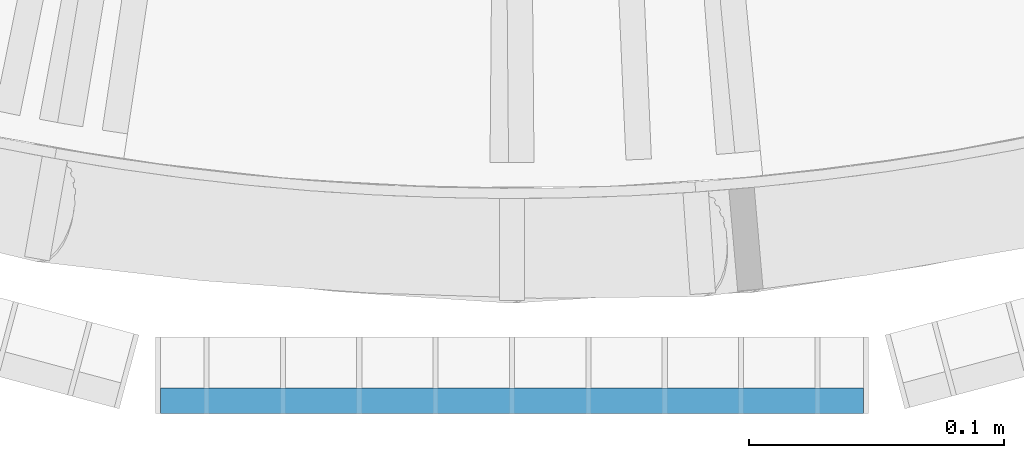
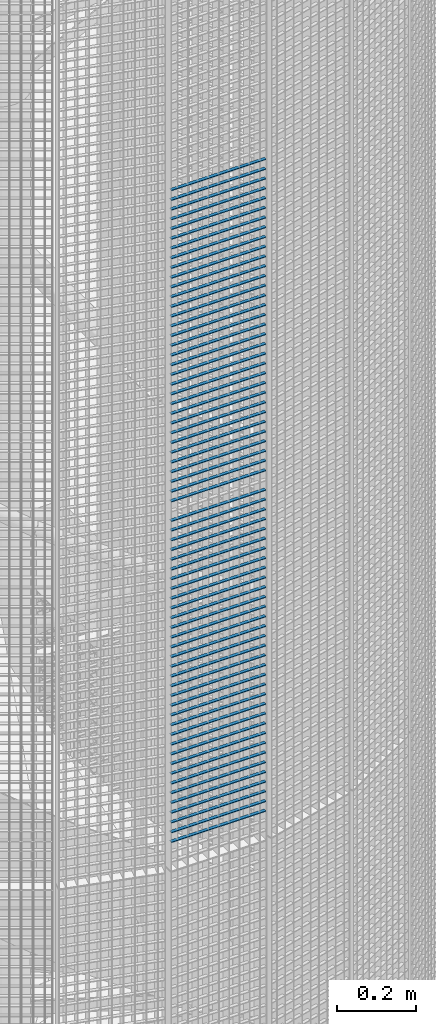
# One storey, part 382 of 1148: 67 beams, 1 element without a shape of its own.
"""IFC2X3 building model written with IfcOpenShell, lengths in millimetres."""

from ifc_helpers import new_model, si_unit, frame, origin_with_axes, origin_2d_with_axis, place, context, subcontext, project, spatial, rectangle, extrude, material, type_object, element, aggregate, save


model = new_model("IFC2X3")

# Units and contexts
model_context = context("Model", 3, precision=1e-05, world=origin_with_axes())
body_context = subcontext(model_context, "Body", "Model", "MODEL_VIEW")
ifc_project = project(units=[si_unit("LENGTHUNIT", "METRE", prefix="MILLI"), si_unit("AREAUNIT", "SQUARE_METRE"), si_unit("VOLUMEUNIT", "CUBIC_METRE"), si_unit("MASSUNIT", "GRAM", prefix="KILO"), si_unit("TIMEUNIT", "SECOND"), si_unit("PLANEANGLEUNIT", "RADIAN"), si_unit("SOLIDANGLEUNIT", "STERADIAN"), si_unit("THERMODYNAMICTEMPERATUREUNIT", "DEGREE_CELSIUS"), si_unit("LUMINOUSINTENSITYUNIT", "LUMEN")], contexts=[model_context])

# Site, building, storey
site_placement = place(None, origin_with_axes())
site = spatial("IfcSite", under=ifc_project, at=site_placement, Name="Undefined", CompositionType="ELEMENT")
building_placement = place(site_placement, origin_with_axes())
building = spatial("IfcBuilding", under=site, at=building_placement, Name="Undefined", CompositionType="ELEMENT")
storey_placement = place(building_placement, origin_with_axes())
storey = spatial("IfcBuildingStorey", under=building, at=storey_placement, Name="Undefined", CompositionType="ELEMENT", Elevation=0.0)

# Assembly, beams
assembly_placement = place(storey_placement, origin_with_axes())
assembly = element("IfcElementAssembly", 1, at=assembly_placement, inside=storey, Name="BORDURE", AssemblyPlace="NOTDEFINED", PredefinedType="NOTDEFINED")
ifc_material = material(Name="STEEL/S235JR")
beam_type = type_object("IfcBeamType", Name="PL2*10", PredefinedType="NOTDEFINED")
beam_1_placement = place(assembly_placement, frame((21737.9960033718, -1113.47999999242, 14100.0), z_axis=(0.0, -1.0, 0.0), x_axis=(-1.0, 0.0, 0.0)))
beam_1 = element("IfcBeam", 2, at=beam_1_placement, type_object=beam_type, material=ifc_material, Name="ENTRETOISE", context=body_context, shape_type="SweptSolid", body=[
    extrude(rectangle(XDim=2.0, YDim=10.0, at=origin_2d_with_axis()), frame((275.999999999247, 9.09494701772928e-13, 1.53210777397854e-14), z_axis=(-1.0, 0.0, 0.0), x_axis=(0.0, -1.0, 0.0)), (0.0, 0.0, 1.0), 276.0),
])
beam_2_placement = place(assembly_placement, frame((21737.9960033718, -1113.47999999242, 14070.0), z_axis=(0.0, -1.0, 0.0), x_axis=(-1.0, 0.0, 0.0)))
beam_2 = element("IfcBeam", 3, at=beam_2_placement, type_object=beam_type, material=ifc_material, Name="ENTRETOISE", context=body_context, shape_type="SweptSolid", body=[
    extrude(rectangle(XDim=2.0, YDim=10.0, at=origin_2d_with_axis()), frame((275.999999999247, 9.09494701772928e-13, 1.53210777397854e-14), z_axis=(-1.0, 0.0, 0.0), x_axis=(0.0, -1.0, 0.0)), (0.0, 0.0, 1.0), 276.0),
])
beam_3_placement = place(assembly_placement, frame((21737.9960033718, -1113.47999999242, 14040.0), z_axis=(0.0, -1.0, 0.0), x_axis=(-1.0, 0.0, 0.0)))
beam_3 = element("IfcBeam", 4, at=beam_3_placement, type_object=beam_type, material=ifc_material, Name="ENTRETOISE", context=body_context, shape_type="SweptSolid", body=[
    extrude(rectangle(XDim=2.0, YDim=10.0, at=origin_2d_with_axis()), frame((275.999999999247, 9.09494701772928e-13, 1.53210777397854e-14), z_axis=(-1.0, 0.0, 0.0), x_axis=(0.0, -1.0, 0.0)), (0.0, 0.0, 1.0), 276.0),
])
beam_4_placement = place(assembly_placement, frame((21737.9960033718, -1113.47999999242, 14010.0), z_axis=(0.0, -1.0, 0.0), x_axis=(-1.0, 0.0, 0.0)))
beam_4 = element("IfcBeam", 5, at=beam_4_placement, type_object=beam_type, material=ifc_material, Name="ENTRETOISE", context=body_context, shape_type="SweptSolid", body=[
    extrude(rectangle(XDim=2.0, YDim=10.0, at=origin_2d_with_axis()), frame((275.999999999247, 9.09494701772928e-13, 1.53210777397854e-14), z_axis=(-1.0, 0.0, 0.0), x_axis=(0.0, -1.0, 0.0)), (0.0, 0.0, 1.0), 276.0),
])
beam_5_placement = place(assembly_placement, frame((21737.9960033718, -1113.47999999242, 13980.0), z_axis=(0.0, -1.0, 0.0), x_axis=(-1.0, 0.0, 0.0)))
beam_5 = element("IfcBeam", 6, at=beam_5_placement, type_object=beam_type, material=ifc_material, Name="ENTRETOISE", context=body_context, shape_type="SweptSolid", body=[
    extrude(rectangle(XDim=2.0, YDim=10.0, at=origin_2d_with_axis()), frame((275.999999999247, 9.09494701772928e-13, 1.53210777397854e-14), z_axis=(-1.0, 0.0, 0.0), x_axis=(0.0, -1.0, 0.0)), (0.0, 0.0, 1.0), 276.0),
])
beam_6_placement = place(assembly_placement, frame((21737.9960033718, -1113.47999999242, 13950.0), z_axis=(0.0, -1.0, 0.0), x_axis=(-1.0, 0.0, 0.0)))
beam_6 = element("IfcBeam", 7, at=beam_6_placement, type_object=beam_type, material=ifc_material, Name="ENTRETOISE", context=body_context, shape_type="SweptSolid", body=[
    extrude(rectangle(XDim=2.0, YDim=10.0, at=origin_2d_with_axis()), frame((275.999999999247, 9.09494701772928e-13, 1.53210777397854e-14), z_axis=(-1.0, 0.0, 0.0), x_axis=(0.0, -1.0, 0.0)), (0.0, 0.0, 1.0), 276.0),
])
beam_7_placement = place(assembly_placement, frame((21737.9960033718, -1113.47999999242, 13920.0), z_axis=(0.0, -1.0, 0.0), x_axis=(-1.0, 0.0, 0.0)))
beam_7 = element("IfcBeam", 8, at=beam_7_placement, type_object=beam_type, material=ifc_material, Name="ENTRETOISE", context=body_context, shape_type="SweptSolid", body=[
    extrude(rectangle(XDim=2.0, YDim=10.0, at=origin_2d_with_axis()), frame((275.999999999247, 9.09494701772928e-13, 1.53210777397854e-14), z_axis=(-1.0, 0.0, 0.0), x_axis=(0.0, -1.0, 0.0)), (0.0, 0.0, 1.0), 276.0),
])
beam_8_placement = place(assembly_placement, frame((21737.9960033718, -1113.47999999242, 13890.0), z_axis=(0.0, -1.0, 0.0), x_axis=(-1.0, 0.0, 0.0)))
beam_8 = element("IfcBeam", 9, at=beam_8_placement, type_object=beam_type, material=ifc_material, Name="ENTRETOISE", context=body_context, shape_type="SweptSolid", body=[
    extrude(rectangle(XDim=2.0, YDim=10.0, at=origin_2d_with_axis()), frame((275.999999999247, 9.09494701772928e-13, 1.53210777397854e-14), z_axis=(-1.0, 0.0, 0.0), x_axis=(0.0, -1.0, 0.0)), (0.0, 0.0, 1.0), 276.0),
])
beam_9_placement = place(assembly_placement, frame((21737.9960033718, -1113.47999999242, 13860.0), z_axis=(0.0, -1.0, 0.0), x_axis=(-1.0, 0.0, 0.0)))
beam_9 = element("IfcBeam", 10, at=beam_9_placement, type_object=beam_type, material=ifc_material, Name="ENTRETOISE", context=body_context, shape_type="SweptSolid", body=[
    extrude(rectangle(XDim=2.0, YDim=10.0, at=origin_2d_with_axis()), frame((275.999999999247, 9.09494701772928e-13, 1.53210777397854e-14), z_axis=(-1.0, 0.0, 0.0), x_axis=(0.0, -1.0, 0.0)), (0.0, 0.0, 1.0), 276.0),
])
beam_10_placement = place(assembly_placement, frame((21737.9960033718, -1113.47999999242, 13830.0), z_axis=(0.0, -1.0, 0.0), x_axis=(-1.0, 0.0, 0.0)))
beam_10 = element("IfcBeam", 11, at=beam_10_placement, type_object=beam_type, material=ifc_material, Name="ENTRETOISE", context=body_context, shape_type="SweptSolid", body=[
    extrude(rectangle(XDim=2.0, YDim=10.0, at=origin_2d_with_axis()), frame((275.999999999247, 9.09494701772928e-13, 1.53210777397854e-14), z_axis=(-1.0, 0.0, 0.0), x_axis=(0.0, -1.0, 0.0)), (0.0, 0.0, 1.0), 276.0),
])
beam_11_placement = place(assembly_placement, frame((21737.9960033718, -1113.47999999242, 13800.0), z_axis=(0.0, -1.0, 0.0), x_axis=(-1.0, 0.0, 0.0)))
beam_11 = element("IfcBeam", 12, at=beam_11_placement, type_object=beam_type, material=ifc_material, Name="ENTRETOISE", context=body_context, shape_type="SweptSolid", body=[
    extrude(rectangle(XDim=2.0, YDim=10.0, at=origin_2d_with_axis()), frame((275.999999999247, 9.09494701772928e-13, 1.53210777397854e-14), z_axis=(-1.0, 0.0, 0.0), x_axis=(0.0, -1.0, 0.0)), (0.0, 0.0, 1.0), 276.0),
])
beam_12_placement = place(assembly_placement, frame((21737.9960033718, -1113.47999999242, 13770.0), z_axis=(0.0, -1.0, 0.0), x_axis=(-1.0, 0.0, 0.0)))
beam_12 = element("IfcBeam", 13, at=beam_12_placement, type_object=beam_type, material=ifc_material, Name="ENTRETOISE", context=body_context, shape_type="SweptSolid", body=[
    extrude(rectangle(XDim=2.0, YDim=10.0, at=origin_2d_with_axis()), frame((275.999999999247, 9.09494701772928e-13, 1.53210777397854e-14), z_axis=(-1.0, 0.0, 0.0), x_axis=(0.0, -1.0, 0.0)), (0.0, 0.0, 1.0), 276.0),
])
beam_13_placement = place(assembly_placement, frame((21737.9960033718, -1113.47999999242, 13740.0), z_axis=(0.0, -1.0, 0.0), x_axis=(-1.0, 0.0, 0.0)))
beam_13 = element("IfcBeam", 14, at=beam_13_placement, type_object=beam_type, material=ifc_material, Name="ENTRETOISE", context=body_context, shape_type="SweptSolid", body=[
    extrude(rectangle(XDim=2.0, YDim=10.0, at=origin_2d_with_axis()), frame((275.999999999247, 9.09494701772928e-13, 1.53210777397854e-14), z_axis=(-1.0, 0.0, 0.0), x_axis=(0.0, -1.0, 0.0)), (0.0, 0.0, 1.0), 276.0),
])
beam_14_placement = place(assembly_placement, frame((21737.9960033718, -1113.47999999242, 13710.0), z_axis=(0.0, -1.0, 0.0), x_axis=(-1.0, 0.0, 0.0)))
beam_14 = element("IfcBeam", 15, at=beam_14_placement, type_object=beam_type, material=ifc_material, Name="ENTRETOISE", context=body_context, shape_type="SweptSolid", body=[
    extrude(rectangle(XDim=2.0, YDim=10.0, at=origin_2d_with_axis()), frame((275.999999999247, 9.09494701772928e-13, 1.53210777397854e-14), z_axis=(-1.0, 0.0, 0.0), x_axis=(0.0, -1.0, 0.0)), (0.0, 0.0, 1.0), 276.0),
])
beam_15_placement = place(assembly_placement, frame((21737.9960033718, -1113.47999999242, 13680.0), z_axis=(0.0, -1.0, 0.0), x_axis=(-1.0, 0.0, 0.0)))
beam_15 = element("IfcBeam", 16, at=beam_15_placement, type_object=beam_type, material=ifc_material, Name="ENTRETOISE", context=body_context, shape_type="SweptSolid", body=[
    extrude(rectangle(XDim=2.0, YDim=10.0, at=origin_2d_with_axis()), frame((275.999999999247, 9.09494701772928e-13, 1.53210777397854e-14), z_axis=(-1.0, 0.0, 0.0), x_axis=(0.0, -1.0, 0.0)), (0.0, 0.0, 1.0), 276.0),
])
beam_16_placement = place(assembly_placement, frame((21737.9960033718, -1113.47999999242, 13650.0), z_axis=(0.0, -1.0, 0.0), x_axis=(-1.0, 0.0, 0.0)))
beam_16 = element("IfcBeam", 17, at=beam_16_placement, type_object=beam_type, material=ifc_material, Name="ENTRETOISE", context=body_context, shape_type="SweptSolid", body=[
    extrude(rectangle(XDim=2.0, YDim=10.0, at=origin_2d_with_axis()), frame((275.999999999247, 9.09494701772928e-13, 1.53210777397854e-14), z_axis=(-1.0, 0.0, 0.0), x_axis=(0.0, -1.0, 0.0)), (0.0, 0.0, 1.0), 276.0),
])
beam_17_placement = place(assembly_placement, frame((21737.9960033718, -1113.47999999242, 13620.0), z_axis=(0.0, -1.0, 0.0), x_axis=(-1.0, 0.0, 0.0)))
beam_17 = element("IfcBeam", 18, at=beam_17_placement, type_object=beam_type, material=ifc_material, Name="ENTRETOISE", context=body_context, shape_type="SweptSolid", body=[
    extrude(rectangle(XDim=2.0, YDim=10.0, at=origin_2d_with_axis()), frame((275.999999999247, 9.09494701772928e-13, 1.53210777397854e-14), z_axis=(-1.0, 0.0, 0.0), x_axis=(0.0, -1.0, 0.0)), (0.0, 0.0, 1.0), 276.0),
])
beam_18_placement = place(assembly_placement, frame((21737.9960033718, -1113.47999999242, 13590.0), z_axis=(0.0, -1.0, 0.0), x_axis=(-1.0, 0.0, 0.0)))
beam_18 = element("IfcBeam", 19, at=beam_18_placement, type_object=beam_type, material=ifc_material, Name="ENTRETOISE", context=body_context, shape_type="SweptSolid", body=[
    extrude(rectangle(XDim=2.0, YDim=10.0, at=origin_2d_with_axis()), frame((275.999999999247, 9.09494701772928e-13, 1.53210777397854e-14), z_axis=(-1.0, 0.0, 0.0), x_axis=(0.0, -1.0, 0.0)), (0.0, 0.0, 1.0), 276.0),
])
beam_19_placement = place(assembly_placement, frame((21737.9960033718, -1113.47999999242, 13560.0), z_axis=(0.0, -1.0, 0.0), x_axis=(-1.0, 0.0, 0.0)))
beam_19 = element("IfcBeam", 20, at=beam_19_placement, type_object=beam_type, material=ifc_material, Name="ENTRETOISE", context=body_context, shape_type="SweptSolid", body=[
    extrude(rectangle(XDim=2.0, YDim=10.0, at=origin_2d_with_axis()), frame((275.999999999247, 9.09494701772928e-13, 1.53210777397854e-14), z_axis=(-1.0, 0.0, 0.0), x_axis=(0.0, -1.0, 0.0)), (0.0, 0.0, 1.0), 276.0),
])
beam_20_placement = place(assembly_placement, frame((21737.9960033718, -1113.47999999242, 13530.0), z_axis=(0.0, -1.0, 0.0), x_axis=(-1.0, 0.0, 0.0)))
beam_20 = element("IfcBeam", 21, at=beam_20_placement, type_object=beam_type, material=ifc_material, Name="ENTRETOISE", context=body_context, shape_type="SweptSolid", body=[
    extrude(rectangle(XDim=2.0, YDim=10.0, at=origin_2d_with_axis()), frame((275.999999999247, 9.09494701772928e-13, 1.53210777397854e-14), z_axis=(-1.0, 0.0, 0.0), x_axis=(0.0, -1.0, 0.0)), (0.0, 0.0, 1.0), 276.0),
])
beam_21_placement = place(assembly_placement, frame((21737.9960033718, -1113.47999999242, 13500.0), z_axis=(0.0, -1.0, 0.0), x_axis=(-1.0, 0.0, 0.0)))
beam_21 = element("IfcBeam", 22, at=beam_21_placement, type_object=beam_type, material=ifc_material, Name="ENTRETOISE", context=body_context, shape_type="SweptSolid", body=[
    extrude(rectangle(XDim=2.0, YDim=10.0, at=origin_2d_with_axis()), frame((275.999999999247, 9.09494701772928e-13, 1.53210777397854e-14), z_axis=(-1.0, 0.0, 0.0), x_axis=(0.0, -1.0, 0.0)), (0.0, 0.0, 1.0), 276.0),
])
beam_22_placement = place(assembly_placement, frame((21737.9960033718, -1113.47999999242, 13470.0), z_axis=(0.0, -1.0, 0.0), x_axis=(-1.0, 0.0, 0.0)))
beam_22 = element("IfcBeam", 23, at=beam_22_placement, type_object=beam_type, material=ifc_material, Name="ENTRETOISE", context=body_context, shape_type="SweptSolid", body=[
    extrude(rectangle(XDim=2.0, YDim=10.0, at=origin_2d_with_axis()), frame((275.999999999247, 9.09494701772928e-13, 1.53210777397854e-14), z_axis=(-1.0, 0.0, 0.0), x_axis=(0.0, -1.0, 0.0)), (0.0, 0.0, 1.0), 276.0),
])
beam_23_placement = place(assembly_placement, frame((21737.9960033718, -1113.47999999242, 13440.0), z_axis=(0.0, -1.0, 0.0), x_axis=(-1.0, 0.0, 0.0)))
beam_23 = element("IfcBeam", 24, at=beam_23_placement, type_object=beam_type, material=ifc_material, Name="ENTRETOISE", context=body_context, shape_type="SweptSolid", body=[
    extrude(rectangle(XDim=2.0, YDim=10.0, at=origin_2d_with_axis()), frame((275.999999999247, 9.09494701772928e-13, 1.53210777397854e-14), z_axis=(-1.0, 0.0, 0.0), x_axis=(0.0, -1.0, 0.0)), (0.0, 0.0, 1.0), 276.0),
])
beam_24_placement = place(assembly_placement, frame((21737.9960033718, -1113.47999999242, 13410.0), z_axis=(0.0, -1.0, 0.0), x_axis=(-1.0, 0.0, 0.0)))
beam_24 = element("IfcBeam", 25, at=beam_24_placement, type_object=beam_type, material=ifc_material, Name="ENTRETOISE", context=body_context, shape_type="SweptSolid", body=[
    extrude(rectangle(XDim=2.0, YDim=10.0, at=origin_2d_with_axis()), frame((275.999999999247, 9.09494701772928e-13, 1.53210777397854e-14), z_axis=(-1.0, 0.0, 0.0), x_axis=(0.0, -1.0, 0.0)), (0.0, 0.0, 1.0), 276.0),
])
beam_25_placement = place(assembly_placement, frame((21737.9960033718, -1113.47999999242, 13380.0), z_axis=(0.0, -1.0, 0.0), x_axis=(-1.0, 0.0, 0.0)))
beam_25 = element("IfcBeam", 26, at=beam_25_placement, type_object=beam_type, material=ifc_material, Name="ENTRETOISE", context=body_context, shape_type="SweptSolid", body=[
    extrude(rectangle(XDim=2.0, YDim=10.0, at=origin_2d_with_axis()), frame((275.999999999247, 9.09494701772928e-13, 1.53210777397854e-14), z_axis=(-1.0, 0.0, 0.0), x_axis=(0.0, -1.0, 0.0)), (0.0, 0.0, 1.0), 276.0),
])
beam_26_placement = place(assembly_placement, frame((21737.9960033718, -1113.47999999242, 13350.0), z_axis=(0.0, -1.0, 0.0), x_axis=(-1.0, 0.0, 0.0)))
beam_26 = element("IfcBeam", 27, at=beam_26_placement, type_object=beam_type, material=ifc_material, Name="ENTRETOISE", context=body_context, shape_type="SweptSolid", body=[
    extrude(rectangle(XDim=2.0, YDim=10.0, at=origin_2d_with_axis()), frame((275.999999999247, 9.09494701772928e-13, 1.53210777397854e-14), z_axis=(-1.0, 0.0, 0.0), x_axis=(0.0, -1.0, 0.0)), (0.0, 0.0, 1.0), 276.0),
])
beam_27_placement = place(assembly_placement, frame((21737.9960033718, -1113.47999999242, 13320.0), z_axis=(0.0, -1.0, 0.0), x_axis=(-1.0, 0.0, 0.0)))
beam_27 = element("IfcBeam", 28, at=beam_27_placement, type_object=beam_type, material=ifc_material, Name="ENTRETOISE", context=body_context, shape_type="SweptSolid", body=[
    extrude(rectangle(XDim=2.0, YDim=10.0, at=origin_2d_with_axis()), frame((275.999999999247, 9.09494701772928e-13, 1.53210777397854e-14), z_axis=(-1.0, 0.0, 0.0), x_axis=(0.0, -1.0, 0.0)), (0.0, 0.0, 1.0), 276.0),
])
beam_28_placement = place(assembly_placement, frame((21737.9960033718, -1113.47999999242, 13290.0), z_axis=(0.0, -1.0, 0.0), x_axis=(-1.0, 0.0, 0.0)))
beam_28 = element("IfcBeam", 29, at=beam_28_placement, type_object=beam_type, material=ifc_material, Name="ENTRETOISE", context=body_context, shape_type="SweptSolid", body=[
    extrude(rectangle(XDim=2.0, YDim=10.0, at=origin_2d_with_axis()), frame((275.999999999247, 9.09494701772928e-13, 1.53210777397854e-14), z_axis=(-1.0, 0.0, 0.0), x_axis=(0.0, -1.0, 0.0)), (0.0, 0.0, 1.0), 276.0),
])
beam_29_placement = place(assembly_placement, frame((21737.9960033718, -1113.47999999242, 13260.0), z_axis=(0.0, -1.0, 0.0), x_axis=(-1.0, 0.0, 0.0)))
beam_29 = element("IfcBeam", 30, at=beam_29_placement, type_object=beam_type, material=ifc_material, Name="ENTRETOISE", context=body_context, shape_type="SweptSolid", body=[
    extrude(rectangle(XDim=2.0, YDim=10.0, at=origin_2d_with_axis()), frame((275.999999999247, 9.09494701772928e-13, 1.53210777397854e-14), z_axis=(-1.0, 0.0, 0.0), x_axis=(0.0, -1.0, 0.0)), (0.0, 0.0, 1.0), 276.0),
])
beam_30_placement = place(assembly_placement, frame((21737.9960033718, -1113.47999999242, 13230.0), z_axis=(0.0, -1.0, 0.0), x_axis=(-1.0, 0.0, 0.0)))
beam_30 = element("IfcBeam", 31, at=beam_30_placement, type_object=beam_type, material=ifc_material, Name="ENTRETOISE", context=body_context, shape_type="SweptSolid", body=[
    extrude(rectangle(XDim=2.0, YDim=10.0, at=origin_2d_with_axis()), frame((275.999999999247, 9.09494701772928e-13, 1.53210777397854e-14), z_axis=(-1.0, 0.0, 0.0), x_axis=(0.0, -1.0, 0.0)), (0.0, 0.0, 1.0), 276.0),
])
beam_31_placement = place(assembly_placement, frame((21737.9960033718, -1113.47999999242, 13200.0), z_axis=(0.0, -1.0, 0.0), x_axis=(-1.0, 0.0, 0.0)))
beam_31 = element("IfcBeam", 32, at=beam_31_placement, type_object=beam_type, material=ifc_material, Name="ENTRETOISE", context=body_context, shape_type="SweptSolid", body=[
    extrude(rectangle(XDim=2.0, YDim=10.0, at=origin_2d_with_axis()), frame((275.999999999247, 9.09494701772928e-13, 1.53210777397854e-14), z_axis=(-1.0, 0.0, 0.0), x_axis=(0.0, -1.0, 0.0)), (0.0, 0.0, 1.0), 276.0),
])
beam_32_placement = place(assembly_placement, frame((21737.9960033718, -1113.47999999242, 13170.0), z_axis=(0.0, -1.0, 0.0), x_axis=(-1.0, 0.0, 0.0)))
beam_32 = element("IfcBeam", 33, at=beam_32_placement, type_object=beam_type, material=ifc_material, Name="ENTRETOISE", context=body_context, shape_type="SweptSolid", body=[
    extrude(rectangle(XDim=2.0, YDim=10.0, at=origin_2d_with_axis()), frame((275.999999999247, 9.09494701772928e-13, 1.53210777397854e-14), z_axis=(-1.0, 0.0, 0.0), x_axis=(0.0, -1.0, 0.0)), (0.0, 0.0, 1.0), 276.0),
])
beam_33_placement = place(assembly_placement, frame((21737.9960033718, -1113.47999999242, 13140.0), z_axis=(0.0, -1.0, 0.0), x_axis=(-1.0, 0.0, 0.0)))
beam_33 = element("IfcBeam", 34, at=beam_33_placement, type_object=beam_type, material=ifc_material, Name="ENTRETOISE", context=body_context, shape_type="SweptSolid", body=[
    extrude(rectangle(XDim=2.0, YDim=10.0, at=origin_2d_with_axis()), frame((275.999999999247, 9.09494701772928e-13, 1.53210777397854e-14), z_axis=(-1.0, 0.0, 0.0), x_axis=(0.0, -1.0, 0.0)), (0.0, 0.0, 1.0), 276.0),
])
beam_34_placement = place(assembly_placement, frame((21737.9960033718, -1113.47999999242, 12720.0), z_axis=(0.0, -1.0, 0.0), x_axis=(-1.0, 0.0, 0.0)))
beam_34 = element("IfcBeam", 35, at=beam_34_placement, type_object=beam_type, material=ifc_material, Name="ENTRETOISE", context=body_context, shape_type="SweptSolid", body=[
    extrude(rectangle(XDim=2.0, YDim=10.0, at=origin_2d_with_axis()), frame((275.999999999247, 9.09494701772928e-13, 1.53210777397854e-14), z_axis=(-1.0, 0.0, 0.0), x_axis=(0.0, -1.0, 0.0)), (0.0, 0.0, 1.0), 276.0),
])
beam_35_placement = place(assembly_placement, frame((21737.9960033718, -1113.47999999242, 12690.0), z_axis=(0.0, -1.0, 0.0), x_axis=(-1.0, 0.0, 0.0)))
beam_35 = element("IfcBeam", 36, at=beam_35_placement, type_object=beam_type, material=ifc_material, Name="ENTRETOISE", context=body_context, shape_type="SweptSolid", body=[
    extrude(rectangle(XDim=2.0, YDim=10.0, at=origin_2d_with_axis()), frame((275.999999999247, 9.09494701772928e-13, 1.53210777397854e-14), z_axis=(-1.0, 0.0, 0.0), x_axis=(0.0, -1.0, 0.0)), (0.0, 0.0, 1.0), 276.0),
])
beam_36_placement = place(assembly_placement, frame((21737.9960033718, -1113.47999999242, 12750.0), z_axis=(0.0, -1.0, 0.0), x_axis=(-1.0, 0.0, 0.0)))
beam_36 = element("IfcBeam", 37, at=beam_36_placement, type_object=beam_type, material=ifc_material, Name="ENTRETOISE", context=body_context, shape_type="SweptSolid", body=[
    extrude(rectangle(XDim=2.0, YDim=10.0, at=origin_2d_with_axis()), frame((275.999999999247, 9.09494701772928e-13, 1.53210777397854e-14), z_axis=(-1.0, 0.0, 0.0), x_axis=(0.0, -1.0, 0.0)), (0.0, 0.0, 1.0), 276.0),
])
beam_37_placement = place(assembly_placement, frame((21737.9960033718, -1113.47999999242, 12660.0), z_axis=(0.0, -1.0, 0.0), x_axis=(-1.0, 0.0, 0.0)))
beam_37 = element("IfcBeam", 38, at=beam_37_placement, type_object=beam_type, material=ifc_material, Name="ENTRETOISE", context=body_context, shape_type="SweptSolid", body=[
    extrude(rectangle(XDim=2.0, YDim=10.0, at=origin_2d_with_axis()), frame((275.999999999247, 9.09494701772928e-13, 1.53210777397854e-14), z_axis=(-1.0, 0.0, 0.0), x_axis=(0.0, -1.0, 0.0)), (0.0, 0.0, 1.0), 276.0),
])
beam_38_placement = place(assembly_placement, frame((21737.9960033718, -1113.47999999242, 12630.0), z_axis=(0.0, -1.0, 0.0), x_axis=(-1.0, 0.0, 0.0)))
beam_38 = element("IfcBeam", 39, at=beam_38_placement, type_object=beam_type, material=ifc_material, Name="ENTRETOISE", context=body_context, shape_type="SweptSolid", body=[
    extrude(rectangle(XDim=2.0, YDim=10.0, at=origin_2d_with_axis()), frame((275.999999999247, 9.09494701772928e-13, 1.53210777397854e-14), z_axis=(-1.0, 0.0, 0.0), x_axis=(0.0, -1.0, 0.0)), (0.0, 0.0, 1.0), 276.0),
])
beam_39_placement = place(assembly_placement, frame((21737.9960033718, -1113.47999999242, 12780.0), z_axis=(0.0, -1.0, 0.0), x_axis=(-1.0, 0.0, 0.0)))
beam_39 = element("IfcBeam", 40, at=beam_39_placement, type_object=beam_type, material=ifc_material, Name="ENTRETOISE", context=body_context, shape_type="SweptSolid", body=[
    extrude(rectangle(XDim=2.0, YDim=10.0, at=origin_2d_with_axis()), frame((275.999999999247, 9.09494701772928e-13, 1.53210777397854e-14), z_axis=(-1.0, 0.0, 0.0), x_axis=(0.0, -1.0, 0.0)), (0.0, 0.0, 1.0), 276.0),
])
beam_40_placement = place(assembly_placement, frame((21737.9960033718, -1113.47999999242, 12600.0), z_axis=(0.0, -1.0, 0.0), x_axis=(-1.0, 0.0, 0.0)))
beam_40 = element("IfcBeam", 41, at=beam_40_placement, type_object=beam_type, material=ifc_material, Name="ENTRETOISE", context=body_context, shape_type="SweptSolid", body=[
    extrude(rectangle(XDim=2.0, YDim=10.0, at=origin_2d_with_axis()), frame((275.999999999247, 9.09494701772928e-13, 1.53210777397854e-14), z_axis=(-1.0, 0.0, 0.0), x_axis=(0.0, -1.0, 0.0)), (0.0, 0.0, 1.0), 276.0),
])
beam_41_placement = place(assembly_placement, frame((21737.9960033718, -1113.47999999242, 12810.0), z_axis=(0.0, -1.0, 0.0), x_axis=(-1.0, 0.0, 0.0)))
beam_41 = element("IfcBeam", 42, at=beam_41_placement, type_object=beam_type, material=ifc_material, Name="ENTRETOISE", context=body_context, shape_type="SweptSolid", body=[
    extrude(rectangle(XDim=2.0, YDim=10.0, at=origin_2d_with_axis()), frame((275.999999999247, 9.09494701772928e-13, 1.53210777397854e-14), z_axis=(-1.0, 0.0, 0.0), x_axis=(0.0, -1.0, 0.0)), (0.0, 0.0, 1.0), 276.0),
])
beam_42_placement = place(assembly_placement, frame((21737.9960033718, -1113.47999999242, 12570.0), z_axis=(0.0, -1.0, 0.0), x_axis=(-1.0, 0.0, 0.0)))
beam_42 = element("IfcBeam", 43, at=beam_42_placement, type_object=beam_type, material=ifc_material, Name="ENTRETOISE", context=body_context, shape_type="SweptSolid", body=[
    extrude(rectangle(XDim=2.0, YDim=10.0, at=origin_2d_with_axis()), frame((275.999999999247, 9.09494701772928e-13, 1.53210777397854e-14), z_axis=(-1.0, 0.0, 0.0), x_axis=(0.0, -1.0, 0.0)), (0.0, 0.0, 1.0), 276.0),
])
beam_43_placement = place(assembly_placement, frame((21737.9960033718, -1113.47999999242, 12540.0), z_axis=(0.0, -1.0, 0.0), x_axis=(-1.0, 0.0, 0.0)))
beam_43 = element("IfcBeam", 44, at=beam_43_placement, type_object=beam_type, material=ifc_material, Name="ENTRETOISE", context=body_context, shape_type="SweptSolid", body=[
    extrude(rectangle(XDim=2.0, YDim=10.0, at=origin_2d_with_axis()), frame((275.999999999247, 9.09494701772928e-13, 1.53210777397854e-14), z_axis=(-1.0, 0.0, 0.0), x_axis=(0.0, -1.0, 0.0)), (0.0, 0.0, 1.0), 276.0),
])
beam_44_placement = place(assembly_placement, frame((21737.9960033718, -1113.47999999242, 12840.0), z_axis=(0.0, -1.0, 0.0), x_axis=(-1.0, 0.0, 0.0)))
beam_44 = element("IfcBeam", 45, at=beam_44_placement, type_object=beam_type, material=ifc_material, Name="ENTRETOISE", context=body_context, shape_type="SweptSolid", body=[
    extrude(rectangle(XDim=2.0, YDim=10.0, at=origin_2d_with_axis()), frame((275.999999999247, 9.09494701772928e-13, 1.53210777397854e-14), z_axis=(-1.0, 0.0, 0.0), x_axis=(0.0, -1.0, 0.0)), (0.0, 0.0, 1.0), 276.0),
])
beam_45_placement = place(assembly_placement, frame((21737.9960033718, -1113.47999999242, 12510.0), z_axis=(0.0, -1.0, 0.0), x_axis=(-1.0, 0.0, 0.0)))
beam_45 = element("IfcBeam", 46, at=beam_45_placement, type_object=beam_type, material=ifc_material, Name="ENTRETOISE", context=body_context, shape_type="SweptSolid", body=[
    extrude(rectangle(XDim=2.0, YDim=10.0, at=origin_2d_with_axis()), frame((275.999999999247, 9.09494701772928e-13, 1.53210777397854e-14), z_axis=(-1.0, 0.0, 0.0), x_axis=(0.0, -1.0, 0.0)), (0.0, 0.0, 1.0), 276.0),
])
beam_46_placement = place(assembly_placement, frame((21737.9960033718, -1113.47999999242, 12480.0), z_axis=(0.0, -1.0, 0.0), x_axis=(-1.0, 0.0, 0.0)))
beam_46 = element("IfcBeam", 47, at=beam_46_placement, type_object=beam_type, material=ifc_material, Name="ENTRETOISE", context=body_context, shape_type="SweptSolid", body=[
    extrude(rectangle(XDim=2.0, YDim=10.0, at=origin_2d_with_axis()), frame((275.999999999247, 9.09494701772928e-13, 1.53210777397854e-14), z_axis=(-1.0, 0.0, 0.0), x_axis=(0.0, -1.0, 0.0)), (0.0, 0.0, 1.0), 276.0),
])
beam_47_placement = place(assembly_placement, frame((21737.9960033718, -1113.47999999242, 12870.0), z_axis=(0.0, -1.0, 0.0), x_axis=(-1.0, 0.0, 0.0)))
beam_47 = element("IfcBeam", 48, at=beam_47_placement, type_object=beam_type, material=ifc_material, Name="ENTRETOISE", context=body_context, shape_type="SweptSolid", body=[
    extrude(rectangle(XDim=2.0, YDim=10.0, at=origin_2d_with_axis()), frame((275.999999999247, 9.09494701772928e-13, 1.53210777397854e-14), z_axis=(-1.0, 0.0, 0.0), x_axis=(0.0, -1.0, 0.0)), (0.0, 0.0, 1.0), 276.0),
])
beam_48_placement = place(assembly_placement, frame((21737.9960033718, -1113.47999999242, 12450.0), z_axis=(0.0, -1.0, 0.0), x_axis=(-1.0, 0.0, 0.0)))
beam_48 = element("IfcBeam", 49, at=beam_48_placement, type_object=beam_type, material=ifc_material, Name="ENTRETOISE", context=body_context, shape_type="SweptSolid", body=[
    extrude(rectangle(XDim=2.0, YDim=10.0, at=origin_2d_with_axis()), frame((275.999999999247, 9.09494701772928e-13, 1.53210777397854e-14), z_axis=(-1.0, 0.0, 0.0), x_axis=(0.0, -1.0, 0.0)), (0.0, 0.0, 1.0), 276.0),
])
beam_49_placement = place(assembly_placement, frame((21737.9960033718, -1113.47999999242, 12420.0), z_axis=(0.0, -1.0, 0.0), x_axis=(-1.0, 0.0, 0.0)))
beam_49 = element("IfcBeam", 50, at=beam_49_placement, type_object=beam_type, material=ifc_material, Name="ENTRETOISE", context=body_context, shape_type="SweptSolid", body=[
    extrude(rectangle(XDim=2.0, YDim=10.0, at=origin_2d_with_axis()), frame((275.999999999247, 9.09494701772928e-13, 1.53210777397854e-14), z_axis=(-1.0, 0.0, 0.0), x_axis=(0.0, -1.0, 0.0)), (0.0, 0.0, 1.0), 276.0),
])
beam_50_placement = place(assembly_placement, frame((21737.9960033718, -1113.47999999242, 12900.0), z_axis=(0.0, -1.0, 0.0), x_axis=(-1.0, 0.0, 0.0)))
beam_50 = element("IfcBeam", 51, at=beam_50_placement, type_object=beam_type, material=ifc_material, Name="ENTRETOISE", context=body_context, shape_type="SweptSolid", body=[
    extrude(rectangle(XDim=2.0, YDim=10.0, at=origin_2d_with_axis()), frame((275.999999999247, 9.09494701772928e-13, 1.53210777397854e-14), z_axis=(-1.0, 0.0, 0.0), x_axis=(0.0, -1.0, 0.0)), (0.0, 0.0, 1.0), 276.0),
])
beam_51_placement = place(assembly_placement, frame((21737.9960033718, -1113.47999999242, 12390.0), z_axis=(0.0, -1.0, 0.0), x_axis=(-1.0, 0.0, 0.0)))
beam_51 = element("IfcBeam", 52, at=beam_51_placement, type_object=beam_type, material=ifc_material, Name="ENTRETOISE", context=body_context, shape_type="SweptSolid", body=[
    extrude(rectangle(XDim=2.0, YDim=10.0, at=origin_2d_with_axis()), frame((275.999999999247, 9.09494701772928e-13, 1.53210777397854e-14), z_axis=(-1.0, 0.0, 0.0), x_axis=(0.0, -1.0, 0.0)), (0.0, 0.0, 1.0), 276.0),
])
beam_52_placement = place(assembly_placement, frame((21737.9960033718, -1113.47999999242, 12930.0), z_axis=(0.0, -1.0, 0.0), x_axis=(-1.0, 0.0, 0.0)))
beam_52 = element("IfcBeam", 53, at=beam_52_placement, type_object=beam_type, material=ifc_material, Name="ENTRETOISE", context=body_context, shape_type="SweptSolid", body=[
    extrude(rectangle(XDim=2.0, YDim=10.0, at=origin_2d_with_axis()), frame((275.999999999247, 9.09494701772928e-13, 1.53210777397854e-14), z_axis=(-1.0, 0.0, 0.0), x_axis=(0.0, -1.0, 0.0)), (0.0, 0.0, 1.0), 276.0),
])
beam_53_placement = place(assembly_placement, frame((21737.9960033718, -1113.47999999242, 12360.0), z_axis=(0.0, -1.0, 0.0), x_axis=(-1.0, 0.0, 0.0)))
beam_53 = element("IfcBeam", 54, at=beam_53_placement, type_object=beam_type, material=ifc_material, Name="ENTRETOISE", context=body_context, shape_type="SweptSolid", body=[
    extrude(rectangle(XDim=2.0, YDim=10.0, at=origin_2d_with_axis()), frame((275.999999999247, 9.09494701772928e-13, 1.53210777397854e-14), z_axis=(-1.0, 0.0, 0.0), x_axis=(0.0, -1.0, 0.0)), (0.0, 0.0, 1.0), 276.0),
])
beam_54_placement = place(assembly_placement, frame((21737.9960033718, -1113.47999999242, 12330.0), z_axis=(0.0, -1.0, 0.0), x_axis=(-1.0, 0.0, 0.0)))
beam_54 = element("IfcBeam", 55, at=beam_54_placement, type_object=beam_type, material=ifc_material, Name="ENTRETOISE", context=body_context, shape_type="SweptSolid", body=[
    extrude(rectangle(XDim=2.0, YDim=10.0, at=origin_2d_with_axis()), frame((275.999999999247, 9.09494701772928e-13, 1.53210777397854e-14), z_axis=(-1.0, 0.0, 0.0), x_axis=(0.0, -1.0, 0.0)), (0.0, 0.0, 1.0), 276.0),
])
beam_55_placement = place(assembly_placement, frame((21737.9960033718, -1113.47999999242, 12960.0), z_axis=(0.0, -1.0, 0.0), x_axis=(-1.0, 0.0, 0.0)))
beam_55 = element("IfcBeam", 56, at=beam_55_placement, type_object=beam_type, material=ifc_material, Name="ENTRETOISE", context=body_context, shape_type="SweptSolid", body=[
    extrude(rectangle(XDim=2.0, YDim=10.0, at=origin_2d_with_axis()), frame((275.999999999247, 9.09494701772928e-13, 1.53210777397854e-14), z_axis=(-1.0, 0.0, 0.0), x_axis=(0.0, -1.0, 0.0)), (0.0, 0.0, 1.0), 276.0),
])
beam_56_placement = place(assembly_placement, frame((21737.9960033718, -1113.47999999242, 12300.0), z_axis=(0.0, -1.0, 0.0), x_axis=(-1.0, 0.0, 0.0)))
beam_56 = element("IfcBeam", 57, at=beam_56_placement, type_object=beam_type, material=ifc_material, Name="ENTRETOISE", context=body_context, shape_type="SweptSolid", body=[
    extrude(rectangle(XDim=2.0, YDim=10.0, at=origin_2d_with_axis()), frame((275.999999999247, 9.09494701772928e-13, 1.53210777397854e-14), z_axis=(-1.0, 0.0, 0.0), x_axis=(0.0, -1.0, 0.0)), (0.0, 0.0, 1.0), 276.0),
])
beam_57_placement = place(assembly_placement, frame((21737.9960033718, -1113.47999999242, 12270.0), z_axis=(0.0, -1.0, 0.0), x_axis=(-1.0, 0.0, 0.0)))
beam_57 = element("IfcBeam", 58, at=beam_57_placement, type_object=beam_type, material=ifc_material, Name="ENTRETOISE", context=body_context, shape_type="SweptSolid", body=[
    extrude(rectangle(XDim=2.0, YDim=10.0, at=origin_2d_with_axis()), frame((275.999999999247, 9.09494701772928e-13, 1.53210777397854e-14), z_axis=(-1.0, 0.0, 0.0), x_axis=(0.0, -1.0, 0.0)), (0.0, 0.0, 1.0), 276.0),
])
beam_58_placement = place(assembly_placement, frame((21737.9960033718, -1113.47999999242, 12990.0), z_axis=(0.0, -1.0, 0.0), x_axis=(-1.0, 0.0, 0.0)))
beam_58 = element("IfcBeam", 59, at=beam_58_placement, type_object=beam_type, material=ifc_material, Name="ENTRETOISE", context=body_context, shape_type="SweptSolid", body=[
    extrude(rectangle(XDim=2.0, YDim=10.0, at=origin_2d_with_axis()), frame((275.999999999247, 9.09494701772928e-13, 1.53210777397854e-14), z_axis=(-1.0, 0.0, 0.0), x_axis=(0.0, -1.0, 0.0)), (0.0, 0.0, 1.0), 276.0),
])
beam_59_placement = place(assembly_placement, frame((21737.9960033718, -1113.47999999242, 12240.0), z_axis=(0.0, -1.0, 0.0), x_axis=(-1.0, 0.0, 0.0)))
beam_59 = element("IfcBeam", 60, at=beam_59_placement, type_object=beam_type, material=ifc_material, Name="ENTRETOISE", context=body_context, shape_type="SweptSolid", body=[
    extrude(rectangle(XDim=2.0, YDim=10.0, at=origin_2d_with_axis()), frame((275.999999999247, 9.09494701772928e-13, 1.53210777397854e-14), z_axis=(-1.0, 0.0, 0.0), x_axis=(0.0, -1.0, 0.0)), (0.0, 0.0, 1.0), 276.0),
])
beam_60_placement = place(assembly_placement, frame((21737.9960033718, -1113.47999999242, 13020.0), z_axis=(0.0, -1.0, 0.0), x_axis=(-1.0, 0.0, 0.0)))
beam_60 = element("IfcBeam", 61, at=beam_60_placement, type_object=beam_type, material=ifc_material, Name="ENTRETOISE", context=body_context, shape_type="SweptSolid", body=[
    extrude(rectangle(XDim=2.0, YDim=10.0, at=origin_2d_with_axis()), frame((275.999999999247, 9.09494701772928e-13, 1.53210777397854e-14), z_axis=(-1.0, 0.0, 0.0), x_axis=(0.0, -1.0, 0.0)), (0.0, 0.0, 1.0), 276.0),
])
beam_61_placement = place(assembly_placement, frame((21737.9960033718, -1113.47999999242, 12210.0), z_axis=(0.0, -1.0, 0.0), x_axis=(-1.0, 0.0, 0.0)))
beam_61 = element("IfcBeam", 62, at=beam_61_placement, type_object=beam_type, material=ifc_material, Name="ENTRETOISE", context=body_context, shape_type="SweptSolid", body=[
    extrude(rectangle(XDim=2.0, YDim=10.0, at=origin_2d_with_axis()), frame((275.999999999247, 9.09494701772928e-13, 1.53210777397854e-14), z_axis=(-1.0, 0.0, 0.0), x_axis=(0.0, -1.0, 0.0)), (0.0, 0.0, 1.0), 276.0),
])
beam_62_placement = place(assembly_placement, frame((21737.9960033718, -1113.47999999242, 12180.0), z_axis=(0.0, -1.0, 0.0), x_axis=(-1.0, 0.0, 0.0)))
beam_62 = element("IfcBeam", 63, at=beam_62_placement, type_object=beam_type, material=ifc_material, Name="ENTRETOISE", context=body_context, shape_type="SweptSolid", body=[
    extrude(rectangle(XDim=2.0, YDim=10.0, at=origin_2d_with_axis()), frame((275.999999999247, 9.09494701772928e-13, 1.53210777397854e-14), z_axis=(-1.0, 0.0, 0.0), x_axis=(0.0, -1.0, 0.0)), (0.0, 0.0, 1.0), 276.0),
])
beam_63_placement = place(assembly_placement, frame((21737.9960033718, -1113.47999999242, 13050.0), z_axis=(0.0, -1.0, 0.0), x_axis=(-1.0, 0.0, 0.0)))
beam_63 = element("IfcBeam", 64, at=beam_63_placement, type_object=beam_type, material=ifc_material, Name="ENTRETOISE", context=body_context, shape_type="SweptSolid", body=[
    extrude(rectangle(XDim=2.0, YDim=10.0, at=origin_2d_with_axis()), frame((275.999999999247, 9.09494701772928e-13, 1.53210777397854e-14), z_axis=(-1.0, 0.0, 0.0), x_axis=(0.0, -1.0, 0.0)), (0.0, 0.0, 1.0), 276.0),
])
beam_64_placement = place(assembly_placement, frame((21737.9960033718, -1113.47999999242, 12150.0), z_axis=(0.0, -1.0, 0.0), x_axis=(-1.0, 0.0, 0.0)))
beam_64 = element("IfcBeam", 65, at=beam_64_placement, type_object=beam_type, material=ifc_material, Name="ENTRETOISE", context=body_context, shape_type="SweptSolid", body=[
    extrude(rectangle(XDim=2.0, YDim=10.0, at=origin_2d_with_axis()), frame((275.999999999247, 9.09494701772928e-13, 1.53210777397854e-14), z_axis=(-1.0, 0.0, 0.0), x_axis=(0.0, -1.0, 0.0)), (0.0, 0.0, 1.0), 276.0),
])
beam_65_placement = place(assembly_placement, frame((21737.9960033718, -1113.47999999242, 12120.0), z_axis=(0.0, -1.0, 0.0), x_axis=(-1.0, 0.0, 0.0)))
beam_65 = element("IfcBeam", 66, at=beam_65_placement, type_object=beam_type, material=ifc_material, Name="ENTRETOISE", context=body_context, shape_type="SweptSolid", body=[
    extrude(rectangle(XDim=2.0, YDim=10.0, at=origin_2d_with_axis()), frame((275.999999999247, 9.09494701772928e-13, 1.53210777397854e-14), z_axis=(-1.0, 0.0, 0.0), x_axis=(0.0, -1.0, 0.0)), (0.0, 0.0, 1.0), 276.0),
])
beam_66_placement = place(assembly_placement, frame((21737.9960033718, -1113.47999999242, 13080.0), z_axis=(0.0, -1.0, 0.0), x_axis=(-1.0, 0.0, 0.0)))
beam_66 = element("IfcBeam", 67, at=beam_66_placement, type_object=beam_type, material=ifc_material, Name="ENTRETOISE", context=body_context, shape_type="SweptSolid", body=[
    extrude(rectangle(XDim=2.0, YDim=10.0, at=origin_2d_with_axis()), frame((275.999999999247, 9.09494701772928e-13, 1.53210777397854e-14), z_axis=(-1.0, 0.0, 0.0), x_axis=(0.0, -1.0, 0.0)), (0.0, 0.0, 1.0), 276.0),
])
beam_67_placement = place(assembly_placement, frame((21737.9960033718, -1113.47999999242, 12090.0), z_axis=(0.0, -1.0, 0.0), x_axis=(-1.0, 0.0, 0.0)))
beam_67 = element("IfcBeam", 68, at=beam_67_placement, type_object=beam_type, material=ifc_material, Name="ENTRETOISE", context=body_context, shape_type="SweptSolid", body=[
    extrude(rectangle(XDim=2.0, YDim=10.0, at=origin_2d_with_axis()), frame((275.999999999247, 9.09494701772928e-13, 1.53210777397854e-14), z_axis=(-1.0, 0.0, 0.0), x_axis=(0.0, -1.0, 0.0)), (0.0, 0.0, 1.0), 276.0),
])
aggregate(assembly, [beam_1, beam_2, beam_3, beam_4, beam_5, beam_6, beam_7, beam_8, beam_9, beam_10, beam_11, beam_12, beam_13, beam_14, beam_15, beam_16, beam_17, beam_18, beam_19, beam_20, beam_21, beam_22, beam_23, beam_24, beam_25, beam_26, beam_27, beam_28, beam_29, beam_30, beam_31, beam_32, beam_33, beam_34, beam_35, beam_36, beam_37, beam_38, beam_39, beam_40, beam_41, beam_42, beam_43, beam_44, beam_45, beam_46, beam_47, beam_48, beam_49, beam_50, beam_51, beam_52, beam_53, beam_54, beam_55, beam_56, beam_57, beam_58, beam_59, beam_60, beam_61, beam_62, beam_63, beam_64, beam_65, beam_66, beam_67])

save(model, "model.ifc")
